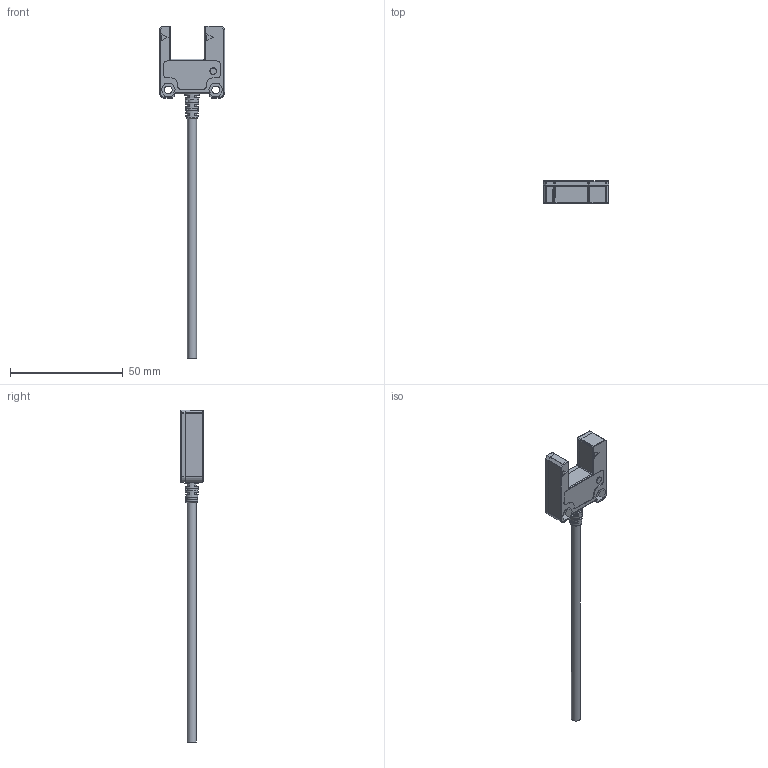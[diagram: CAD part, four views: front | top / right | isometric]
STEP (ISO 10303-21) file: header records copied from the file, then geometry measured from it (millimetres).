
FILE_DESCRIPTION(/* description */ (''),/* implementation_level */ '2;1');
FILE_NAME(/* name */ 'F:\HUAYIFENG\01)HUAYIFENG_宣传文件\01)HUAYIFENG_\X2\5BA34F2065874EF6\X0\_产品资料整合\03)产品3D文档\03)产品3D_槽型系列_K12_2019\03-05)LU1015系列_3D\LU_15_K2_3D.stp',/* time_stamp */ '2020-08-12T20:04:26+08:00',/* author */ ('fengjiarun'),/* organization */ (''),/* preprocessor_version */ 'ST-DEVELOPER v16.5',/* originating_system */ 'Autodesk Inventor 2017',/* authorisation */ '');
FILE_SCHEMA (('AUTOMOTIVE_DESIGN { 1 0 10303 214 3 1 1 }'));
Length unit declared in the file: millimetre
Products named in the file (1): 零件91
Bounding box: 29 x 10 x 147.05 mm (x, y, z)
Volume: 4293.3 mm3; surface area: 7379.5 mm2
Topology: 1 solids, 1 shells, 464 faces, 1203 edges, 747 vertices
Faces by surface type: plane 305, cylinder 106, sphere 24, cone 13, torus 8, bspline 8
Full cylindrical faces by diameter (mm): 1.4 x2, 2.8 x1, 3 x2, 3.4 x2, 4 x1, 4.3 x2
Entity records: 13842 total; most frequent: CARTESIAN_POINT 2531, ORIENTED_EDGE 2336, DIRECTION 2324, EDGE_CURVE 1168, LINE 886, VECTOR 886, VERTEX_POINT 730, AXIS2_PLACEMENT_3D 719
